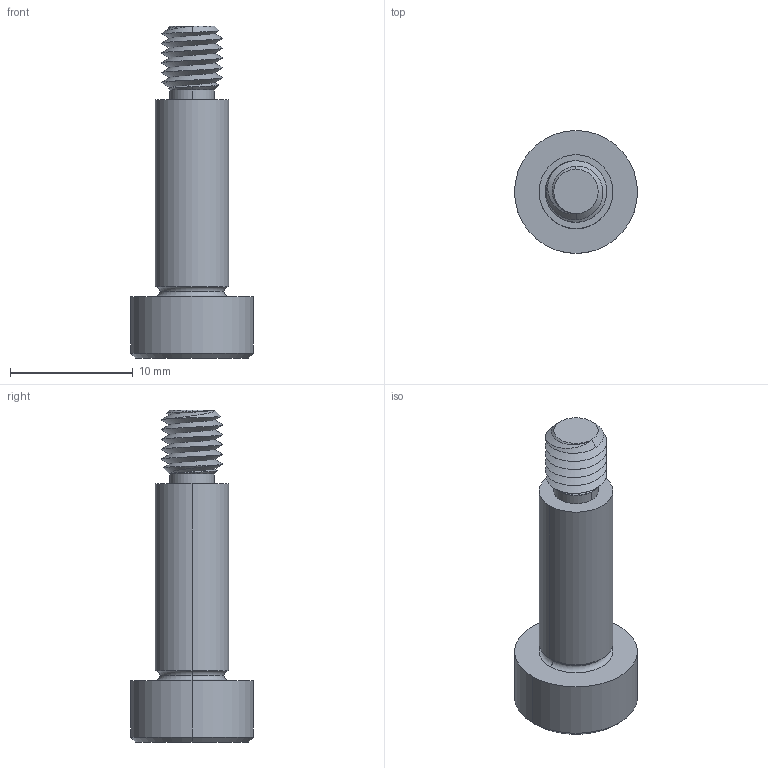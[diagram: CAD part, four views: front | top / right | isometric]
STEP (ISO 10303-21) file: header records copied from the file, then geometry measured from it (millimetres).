
FILE_DESCRIPTION (( 'STEP AP203' ), '1' );
FILE_NAME ('P0130.060-016-B2.step', '2021-11-09T21:24:52', ( '' ), ( '' ), 'SwSTEP 2.0', 'SolidWorks 2019', '' );
FILE_SCHEMA (( 'CONFIG_CONTROL_DESIGN' ));
Length unit declared in the file: millimetre
Products named in the file (1): P0130.060-016-B2
Bounding box: 10 x 10 x 27 mm (x, y, z)
Volume: 896 mm3; surface area: 789.1 mm2
Topology: 1 solids, 1 shells, 53 faces, 121 edges, 71 vertices
Faces by surface type: cylinder 17, plane 16, cone 14, torus 4, bspline 2
Entity records: 2367 total; most frequent: CARTESIAN_POINT 1186, ORIENTED_EDGE 238, DIRECTION 226, EDGE_CURVE 119, AXIS2_PLACEMENT_3D 92, VERTEX_POINT 71, EDGE_LOOP 56, FACE_OUTER_BOUND 53
